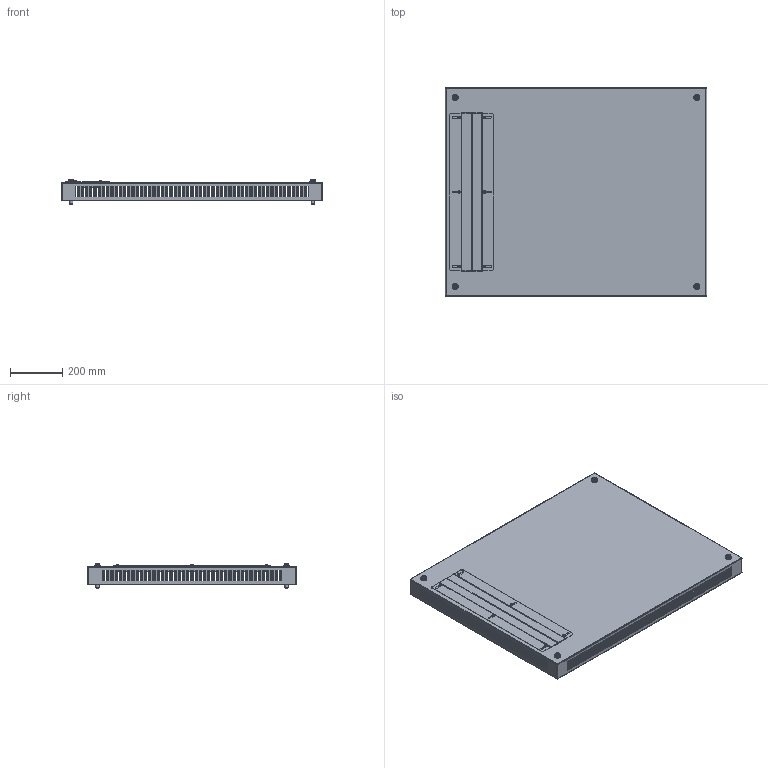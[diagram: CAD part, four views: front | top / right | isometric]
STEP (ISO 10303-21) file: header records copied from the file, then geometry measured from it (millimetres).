
FILE_DESCRIPTION(('STEP AP203'), '1');
FILE_NAME('3320 ÑÁ Ïîòîëî÷íàÿ ïàíåëü', '', ('UNSPECIFIED'), ('UNSPECIFIED'), 'C3D Converter', 'C3D Toolkit', '');
FILE_SCHEMA(('CONFIG_CONTROL_DESIGN'));
Length unit declared in the file: millimetre
Products named in the file (10): 3320.80.100.Э СБ; 3321; 2329; 2322
Assembly tree (39 placements, depth 2):
  3320.80.100.Э СБ
    3321
    2329  x4
    (unnamed)  x4
    (unnamed)  x4
    (unnamed)  x6
    (unnamed)  x6
    (unnamed)  x6
    (unnamed)  x6
    2322  x2
Bounding box: 997 x 797 x 93.5 mm (x, y, z)
Volume: 2610720.9 mm3; surface area: 2300844.3 mm2
Topology: 41 solids, 41 shells, 2198 faces, 6130 edges, 4056 vertices
Faces by surface type: plane 1716, cylinder 234, bspline 180, cone 26, sphere 22, torus 20
Full cylindrical faces by diameter (mm): 4.134 x6, 5 x6, 5.5 x6, 5.8 x6, 6 x4, 8.8 x6, 9.5 x6, 10 x6, 10.106 x4, 12 x8, 13.5 x4, 16 x4, 18 x4, 24 x4
Entity records: 58159 total; most frequent: CARTESIAN_POINT 14944, ORIENTED_EDGE 8836, DIRECTION 7686, EDGE_CURVE 4418, LINE 4182, VECTOR 4182, VERTEX_POINT 2934, EDGE_LOOP 2242
